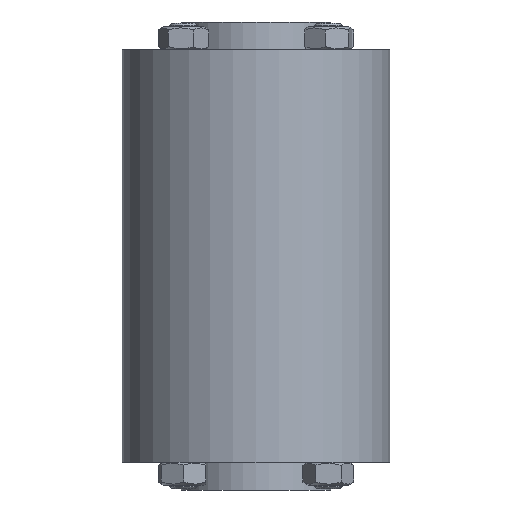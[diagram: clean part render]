
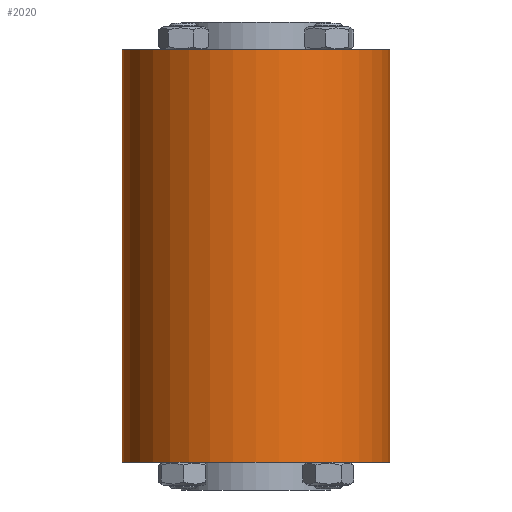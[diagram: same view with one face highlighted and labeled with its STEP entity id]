
A CAD part, front view. The second image highlights one B-rep face of the part: STEP entity #2020.
In plain terms, the highlighted cylindrical face has radius 57.5 mm (diameter 115 mm), a full revolution.
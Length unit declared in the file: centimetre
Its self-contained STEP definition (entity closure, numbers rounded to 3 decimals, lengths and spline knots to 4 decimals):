
#29=CYLINDRICAL_SURFACE('',#2215,5.75);
#353=FACE_BOUND('',#680,.T.);
#499=FACE_OUTER_BOUND('',#679,.T.);
#679=EDGE_LOOP('',(#1619));
#680=EDGE_LOOP('',(#1620));
#837=CIRCLE('',#2216,5.75);
#838=CIRCLE('',#2217,5.75);
#1009=VERTEX_POINT('',#3373);
#1010=VERTEX_POINT('',#3375);
#1235=EDGE_CURVE('',#1009,#1009,#837,.T.);
#1236=EDGE_CURVE('',#1010,#1010,#838,.T.);
#1619=ORIENTED_EDGE('',*,*,#1235,.F.);
#1620=ORIENTED_EDGE('',*,*,#1236,.F.);
#2020=ADVANCED_FACE('',(#499,#353),#29,.T.);
#2215=AXIS2_PLACEMENT_3D('',#3372,#2617,#2618);
#2216=AXIS2_PLACEMENT_3D('',#3374,#2619,#2620);
#2217=AXIS2_PLACEMENT_3D('',#3376,#2621,#2622);
#2617=DIRECTION('center_axis',(0.,0.,
1.));
#2618=DIRECTION('ref_axis',(1.,0.,0.));
#2619=DIRECTION('center_axis',(0.,0.,
-1.));
#2620=DIRECTION('ref_axis',(0.,-1.,0.));
#2621=DIRECTION('center_axis',(0.,0.,
1.));
#2622=DIRECTION('ref_axis',(0.,-1.,0.));
#3372=CARTESIAN_POINT('Origin',(0.,0.,
8.5));
#3373=CARTESIAN_POINT('',(5.75,0.,-8.85));
#3374=CARTESIAN_POINT('Origin',(0.,0.,
-8.85));
#3375=CARTESIAN_POINT('',(5.75,0.,8.85));
#3376=CARTESIAN_POINT('Origin',(0.,0.,
8.85));
